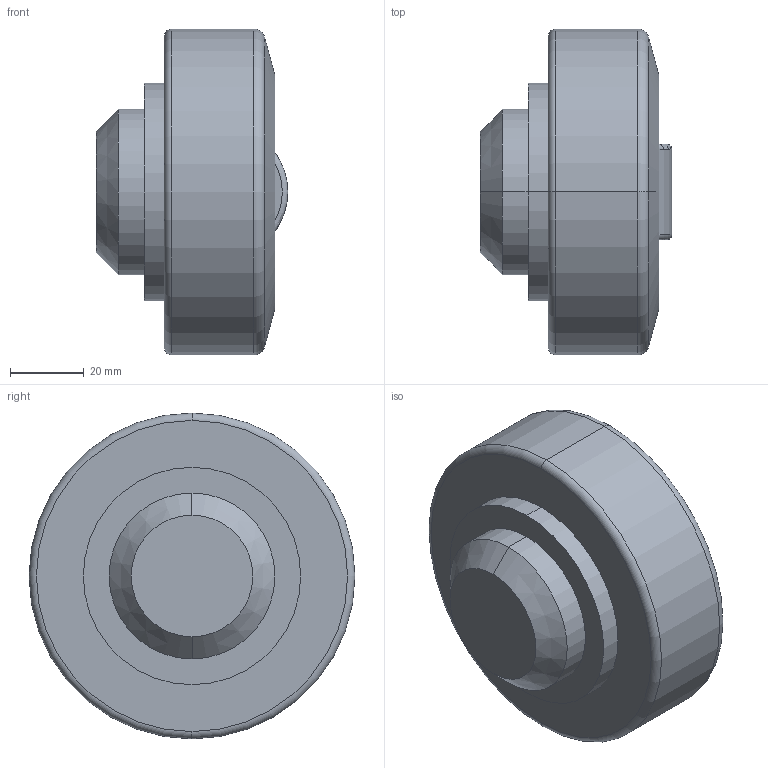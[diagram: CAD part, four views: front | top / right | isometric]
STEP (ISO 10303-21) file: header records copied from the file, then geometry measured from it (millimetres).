
FILE_DESCRIPTION (( 'STEP AP214' ), '1' );
FILE_NAME ('OK 3D40058-L.STEP', '2013-12-04T08:54:16', ( 'usuario' ), ( 'Hewlett-Packard Company' ), 'SwSTEP 2.0', 'SolidWorks 2017', '' );
FILE_SCHEMA (( 'AUTOMOTIVE_DESIGN' ));
Length unit declared in the file: millimetre
Products named in the file (1): OK 3D40058-L
Bounding box: 52 x 88.4 x 88.4 mm (x, y, z)
Volume: 212907.2 mm3; surface area: 21765.8 mm2
Topology: 1 solids, 1 shells, 23 faces, 46 edges, 28 vertices
Faces by surface type: cylinder 7, torus 6, plane 6, cone 4
Entity records: 678 total; most frequent: CARTESIAN_POINT 146, DIRECTION 118, ORIENTED_EDGE 92, AXIS2_PLACEMENT_3D 52, EDGE_CURVE 46, VERTEX_POINT 28, CIRCLE 28, EDGE_LOOP 26
